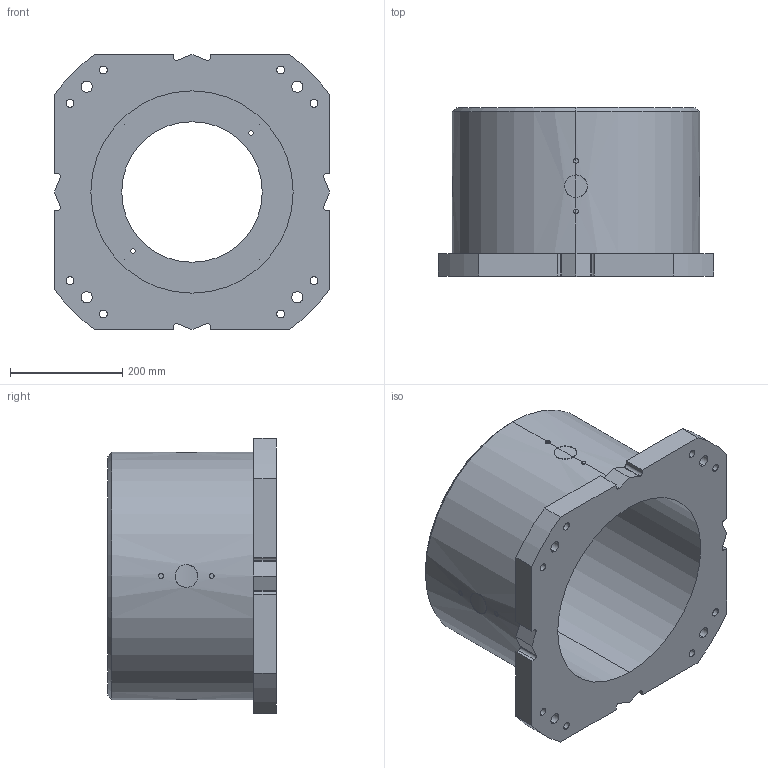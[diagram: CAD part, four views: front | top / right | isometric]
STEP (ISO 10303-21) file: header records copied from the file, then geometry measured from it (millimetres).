
FILE_DESCRIPTION (( 'STEP AP214' ), '1' );
FILE_NAME ('G-300.STEP', '2025-12-05T13:06:06', ( '' ), ( '' ), 'SwSTEP 2.0', 'SolidWorks 2022', '' );
FILE_SCHEMA (( 'AUTOMOTIVE_DESIGN' ));
Length unit declared in the file: millimetre
Products named in the file (1): G-300
Bounding box: 490 x 300 x 490 mm (x, y, z)
Volume: 19966078.3 mm3; surface area: 1141614.6 mm2
Topology: 1 solids, 1 shells, 139 faces, 377 edges, 244 vertices
Faces by surface type: cylinder 93, plane 28, cone 10, bspline 8
Entity records: 7530 total; most frequent: CARTESIAN_POINT 3459, ORIENTED_EDGE 738, DIRECTION 685, EDGE_CURVE 369, AXIS2_PLACEMENT_3D 258, VERTEX_POINT 244, EDGE_LOOP 181, VECTOR 169
